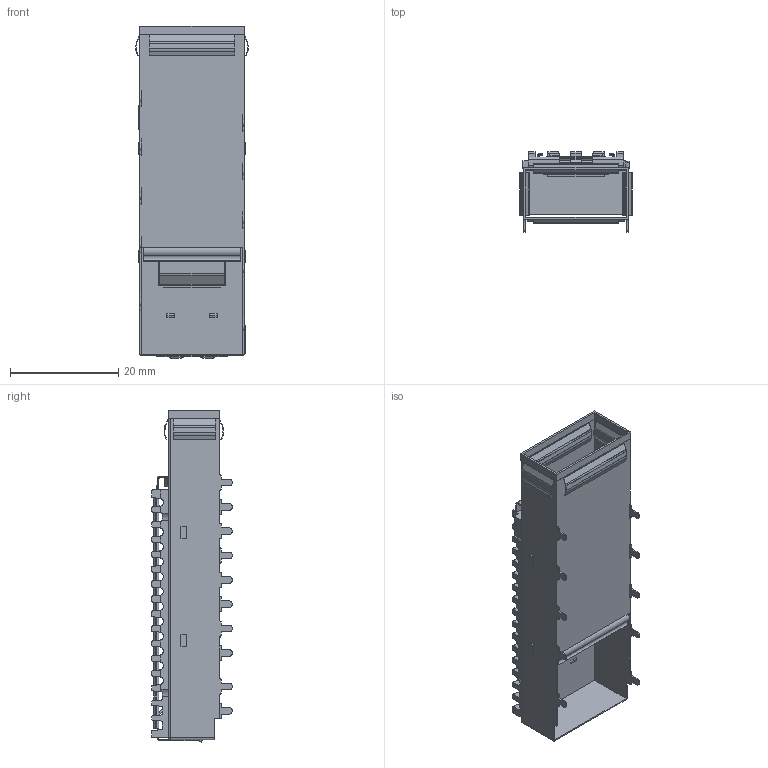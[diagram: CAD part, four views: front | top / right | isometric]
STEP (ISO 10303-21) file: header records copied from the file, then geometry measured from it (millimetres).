
FILE_DESCRIPTION (( 'STEP AP203' ), '1' );
FILE_NAME ('QSFP28 1X1 散热器高12.8 无导光柱 后2脚.STEP', '2024-06-22T06:34:12', ( '' ), ( '' ), 'SwSTEP 2.0', 'SolidWorks 2018', '' );
FILE_SCHEMA (( 'CONFIG_CONTROL_DESIGN' ));
Length unit declared in the file: millimetre
Products named in the file (1): QSFP28 1X1 散热器高12.8 无导光柱 后2脚
Bounding box: 20.81 x 14.9 x 61.36 mm (x, y, z)
Volume: 2462.5 mm3; surface area: 9095.7 mm2
Topology: 1 solids, 1 shells, 1161 faces, 3494 edges, 2339 vertices
Faces by surface type: plane 747, cylinder 399, bspline 10, torus 3, sphere 2
Entity records: 39959 total; most frequent: CARTESIAN_POINT 7486, ORIENTED_EDGE 6984, DIRECTION 6782, EDGE_CURVE 3492, VECTOR 2440, LINE 2440, VERTEX_POINT 2339, AXIS2_PLACEMENT_3D 2171
